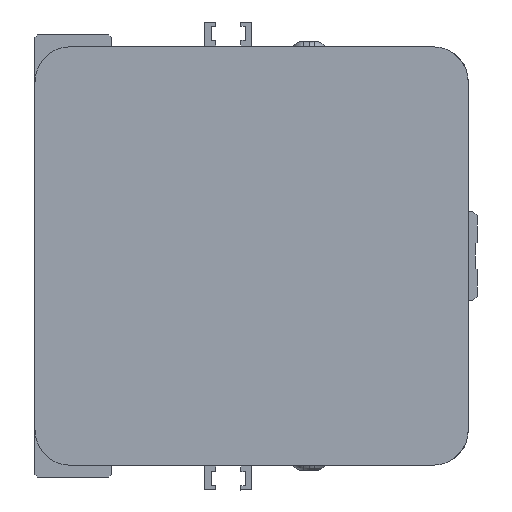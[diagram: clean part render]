
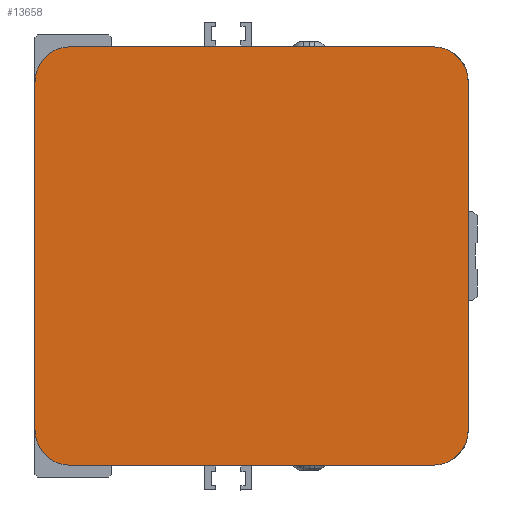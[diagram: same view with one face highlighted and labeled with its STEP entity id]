
A CAD part, left-side view. The second image highlights one B-rep face of the part: STEP entity #13658.
In plain terms, the highlighted planar face has unit normal (-1, 0, 0) as drawn and (0, 0, -1) by its records, which use the part's own axes.
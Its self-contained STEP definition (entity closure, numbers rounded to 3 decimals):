
#988=CIRCLE('',#14631,6.);
#989=CIRCLE('',#14636,6.);
#997=CIRCLE('',#14647,6.);
#998=CIRCLE('',#14649,6.);
#1668=FACE_OUTER_BOUND('',#2499,.T.);
#2499=EDGE_LOOP('',(#9534,#9535,#9536,#9537,#9538,#9539,#9540,#9541));
#3589=LINE('',#19178,#4853);
#3594=LINE('',#19189,#4858);
#3601=LINE('',#19204,#4865);
#3605=LINE('',#19289,#4869);
#4853=VECTOR('',#15873,61.5);
#4858=VECTOR('',#15884,59.);
#4865=VECTOR('',#15901,61.5);
#4869=VECTOR('',#15927,59.);
#6114=VERTEX_POINT('',#19174);
#6116=VERTEX_POINT('',#19177);
#6117=VERTEX_POINT('',#19182);
#6119=VERTEX_POINT('',#19188);
#6121=VERTEX_POINT('',#19199);
#6122=VERTEX_POINT('',#19203);
#6131=VERTEX_POINT('',#19284);
#6132=VERTEX_POINT('',#19288);
#7493=EDGE_CURVE('',#6116,#6114,#3589,.T.);
#7496=EDGE_CURVE('',#6116,#6117,#988,.T.);
#7499=EDGE_CURVE('',#6119,#6117,#3594,.T.);
#7505=EDGE_CURVE('',#6119,#6121,#989,.T.);
#7507=EDGE_CURVE('',#6122,#6121,#3601,.T.);
#7520=EDGE_CURVE('',#6131,#6114,#997,.T.);
#7521=EDGE_CURVE('',#6131,#6132,#3605,.T.);
#7522=EDGE_CURVE('',#6122,#6132,#998,.T.);
#9534=ORIENTED_EDGE('',*,*,#7505,.F.);
#9535=ORIENTED_EDGE('',*,*,#7499,.T.);
#9536=ORIENTED_EDGE('',*,*,#7496,.F.);
#9537=ORIENTED_EDGE('',*,*,#7493,.T.);
#9538=ORIENTED_EDGE('',*,*,#7520,.F.);
#9539=ORIENTED_EDGE('',*,*,#7521,.T.);
#9540=ORIENTED_EDGE('',*,*,#7522,.F.);
#9541=ORIENTED_EDGE('',*,*,#7507,.T.);
#13141=PLANE('',#14648);
#13658=ADVANCED_FACE('',(#1668),#13141,.F.);
#14631=AXIS2_PLACEMENT_3D('',#19183,#15878,#15879);
#14636=AXIS2_PLACEMENT_3D('',#19200,#15896,#15897);
#14647=AXIS2_PLACEMENT_3D('',#19286,#15923,#15924);
#14648=AXIS2_PLACEMENT_3D('',#19287,#15925,#15926);
#14649=AXIS2_PLACEMENT_3D('',#19290,#15928,#15929);
#15873=DIRECTION('',(0.,-1.,0.));
#15878=DIRECTION('center_axis',(0.,0.,
1.));
#15879=DIRECTION('ref_axis',(0.707,0.707,0.));
#15884=DIRECTION('',(1.,0.,0.));
#15896=DIRECTION('center_axis',(0.,0.,
1.));
#15897=DIRECTION('ref_axis',(-0.707,0.707,0.));
#15901=DIRECTION('',(0.,1.,0.));
#15923=DIRECTION('center_axis',(0.,0.,
1.));
#15924=DIRECTION('ref_axis',(0.707,-0.707,0.));
#15925=DIRECTION('center_axis',(0.,0.,
1.));
#15926=DIRECTION('ref_axis',(1.,0.,0.));
#15927=DIRECTION('',(-1.,0.,0.));
#15928=DIRECTION('center_axis',(0.,0.,
1.));
#15929=DIRECTION('ref_axis',(-0.707,-0.707,0.));
#19174=CARTESIAN_POINT('',(75.2,7.5,-507.));
#19177=CARTESIAN_POINT('',(75.2,69.,-507.));
#19178=CARTESIAN_POINT('',(75.2,69.,-507.));
#19182=CARTESIAN_POINT('',(69.2,75.,-507.));
#19183=CARTESIAN_POINT('Origin',(69.2,69.,-507.));
#19188=CARTESIAN_POINT('',(10.2,75.,-507.));
#19189=CARTESIAN_POINT('',(10.2,75.,-507.));
#19199=CARTESIAN_POINT('',(4.2,69.,-507.));
#19200=CARTESIAN_POINT('Origin',(10.2,69.,-507.));
#19203=CARTESIAN_POINT('',(4.2,7.5,-507.));
#19204=CARTESIAN_POINT('',(4.2,7.5,-507.));
#19284=CARTESIAN_POINT('',(69.2,1.5,-507.));
#19286=CARTESIAN_POINT('Origin',(69.2,7.5,-507.));
#19287=CARTESIAN_POINT('Origin',(39.7,38.25,-507.));
#19288=CARTESIAN_POINT('',(10.2,1.5,-507.));
#19289=CARTESIAN_POINT('',(69.2,1.5,-507.));
#19290=CARTESIAN_POINT('Origin',(10.2,7.5,-507.));
